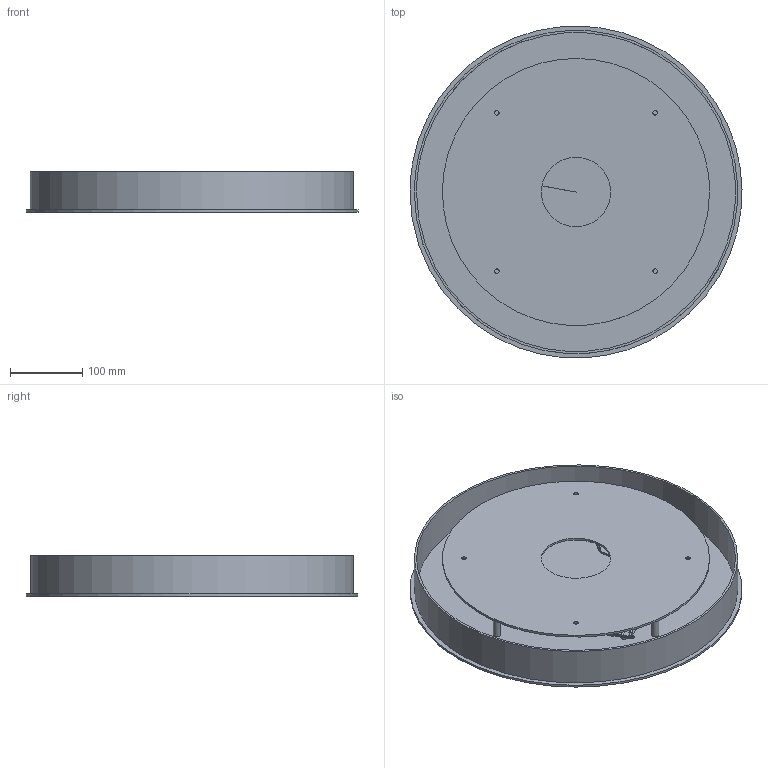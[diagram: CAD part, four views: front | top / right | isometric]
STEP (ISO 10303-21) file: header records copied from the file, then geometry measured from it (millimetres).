
FILE_DESCRIPTION(/* description */ (''),/* implementation_level */ '2;1');
FILE_NAME(/* name */ 'SkLO_Round_Canopy_18_MCR18_3D',/* time_stamp */ '2024-10-18T23:31:52+02:00',/* author */ (''),/* organization */ (''),/* preprocessor_version */ 'ST-DEVELOPER v16.5',/* originating_system */ 'Rhino 7.34',/* authorisation */ '');
FILE_SCHEMA (('CONFIG_CONTROL_DESIGN'));
Length unit declared in the file: millimetre
Products named in the file (1): Document
Bounding box: 459.98 x 459.75 x 56.3 mm (x, y, z)
Volume: 1035374.2 mm3; surface area: 711282.1 mm2
Topology: 14 solids, 18 shells, 175 faces, 398 edges, 262 vertices
Faces by surface type: plane 72, cylinder 64, bspline 39
Full cylindrical faces by diameter (mm): 2.4 x9, 3 x12, 3.5 x6, 5.249 x4, 6 x8, 6.2 x8, 10 x4, 96 x1, 370 x1, 442 x1, 448 x1, 460 x1
Entity records: 12483 total; most frequent: CARTESIAN_POINT 9803, ORIENTED_EDGE 756, EDGE_CURVE 380, VERTEX_POINT 243, EDGE_LOOP 217, ADVANCED_FACE 175, FACE_OUTER_BOUND 175, B_SPLINE_CURVE_WITH_KNOTS 147
